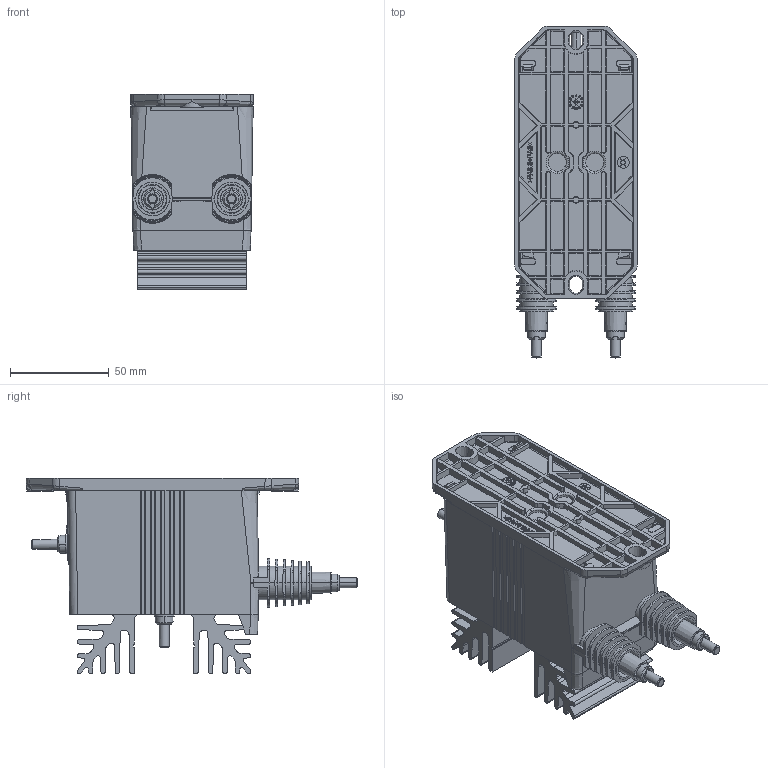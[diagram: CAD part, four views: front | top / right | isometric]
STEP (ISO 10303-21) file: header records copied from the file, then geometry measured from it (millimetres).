
FILE_DESCRIPTION(('CoCreate Modeling STEP Export'),'2;1');
FILE_NAME('BLACKBOX TYPE 1.stp','2012-06-27T15:08:38',(''),(''),'CoCreate Modeling STEP processor for AP214 (Solid Model)','CoCreate Modeling 17.0B 09-Oct-2010 (C) Parametric Technology GmbH','');
FILE_SCHEMA(('AUTOMOTIVE_DESIGN { 1 0 10303 214 1 1 1 1 }'));
Products named in the file (2): boitier_T1_avec_iso
Assembly tree (1 placements, depth 2):
  boitier_T1_avec_iso
    boitier_T1_avec_iso
Bounding box: 62.21 x 168.14 x 99 mm (x, y, z)
Volume: 459917.8 mm3; surface area: 99346.5 mm2
Topology: 1 solids, 23 shells, 1861 faces, 5064 edges, 3310 vertices
Faces by surface type: plane 1345, cylinder 371, cone 81, bspline 44, extrusion 12, torus 8
Entity records: 67550 total; most frequent: CARTESIAN_POINT 21770, ORIENTED_EDGE 10140, DIRECTION 8270, EDGE_CURVE 5064, VECTOR 3510, LINE 3498, VERTEX_POINT 3310, AXIS2_PLACEMENT_3D 2380
